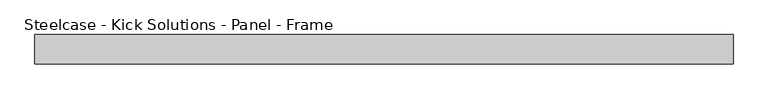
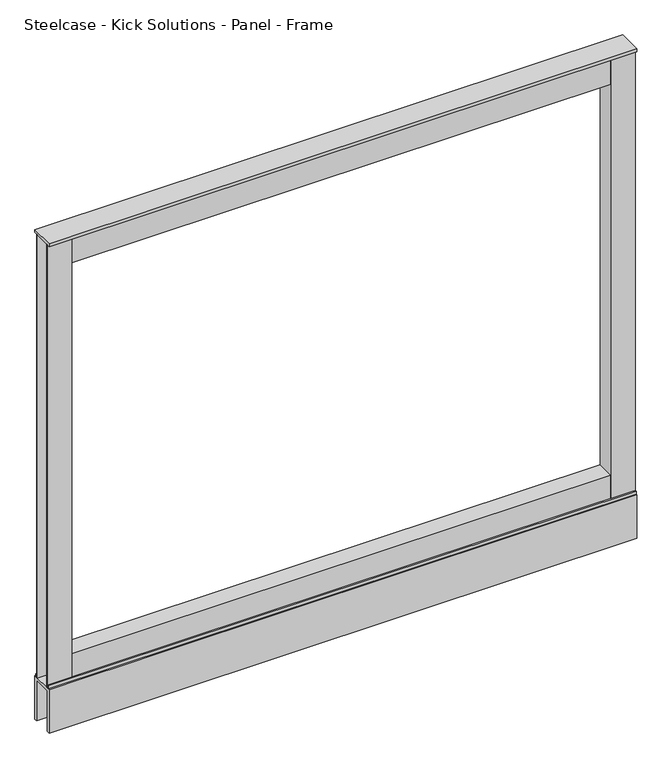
"""IFC4 building model written with IfcOpenShell, lengths in millimetres: furniture geometry, Steelcase - Kick Solutions - Panel - Frame : 42H x 48W."""

from ifc_helpers import new_model, si_unit, frame, origin, place, context, project, spatial, polyline, outline, extrude, source, transform, mapped, element, save


def steelcase_kick_solutions_panel_frame_169389f9(model_context):
    return source(origin(), model_context, "Body", "SweptSolid", [
        extrude(outline(polyline([(50.8006646, 6.3506854), (50.8006646, -31.7493123), (0.0, -31.7493123), (0.0, -29.2093123), (48.2606646, -29.2093123), (48.2606646, 3.8106854), (0.0, 3.8106854), (0.0, 6.3506854), (50.8006646, 6.3506854)])), frame((0.0, 0.0, 95.25), z_axis=(0.0, 0.0, 1.0), x_axis=(1.0, 0.0, 0.0)), (0.0, 0.0, 1.0), 971.55),
        extrude(outline(polyline([(1168.4006661, 6.3506854), (1219.2, 6.3506854), (1219.2, 3.8106854), (1170.9393354, 3.8106854), (1170.9393354, -29.2093123), (1219.2, -29.2093123), (1219.2, -31.7493123), (1168.4006661, -31.7493123), (1168.4006661, 6.3506854)])), frame((0.0, 0.0, 95.25), z_axis=(0.0, 0.0, 1.0), x_axis=(1.0, 0.0, 0.0)), (0.0, 0.0, 1.0), 971.55),
        extrude(outline(polyline([(6.3506854, 101.600003), (9.5256855, 101.600003), (9.5256855, 95.25), (8.409661, 95.25), (8.409661, 100.2902081), (6.3506854, 100.2902081), (6.3506854, 101.600003)])), frame((0.0, 0.0, 0.0), z_axis=(1.0, 0.0, 0.0), x_axis=(0.0, 1.0, 0.0)), (0.0, 0.0, 1.0), 1219.2),
        extrude(outline(polyline([(-34.9243138, 101.600003), (-31.7493123, 101.600003), (-31.7493123, 100.2902081), (-33.8479845, 100.2902081), (-33.8479845, 95.25), (-34.9243138, 95.25), (-34.9243138, 101.600003)])), frame((0.0, 0.0, 0.0), z_axis=(1.0, 0.0, 0.0), x_axis=(0.0, 1.0, 0.0)), (0.0, 0.0, 1.0), 1219.2),
        extrude(outline(polyline([(1168.4006661, -31.7493123), (50.8006646, -31.7493123), (50.8006646, 6.3506854), (1168.4006661, 6.3506854), (1168.4006661, -31.7493123)])), frame((0.0, 0.0, 1009.6500242), z_axis=(0.0, 0.0, 1.0), x_axis=(1.0, 0.0, 0.0)), (0.0, 0.0, 1.0), 57.1499758),
        extrude(outline(polyline([(1168.4006661, -31.7493123), (50.8006646, -31.7493123), (50.8006646, 6.3506854), (1168.4006661, 6.3506854), (1168.4006661, -31.7493123)])), frame((0.0, 0.0, 95.25), z_axis=(0.0, 0.0, 1.0), x_axis=(1.0, 0.0, 0.0)), (0.0, 0.0, 1.0), 57.15),
        extrude(outline(polyline([(1219.2, 12.7000004), (1219.2, -38.1000011), (0.0, -38.1000011), (0.0, 12.7000004), (1219.2, 12.7000004)])), frame((0.0, 0.0, 1066.8), z_axis=(0.0, 0.0, 1.0), x_axis=(1.0, 0.0, 0.0)), (0.0, 0.0, 1.0), 6.35),
        extrude(outline(polyline([(-38.1000011, 95.25), (12.7000004, 95.25), (12.7000004, 0.0), (6.3506854, 0.0), (6.3506854, 88.9), (-31.7493123, 88.9), (-31.7493123, 0.0), (-38.1000011, 0.0), (-38.1000011, 95.25)])), frame((0.0, 0.0, 0.0), z_axis=(1.0, 0.0, 0.0), x_axis=(0.0, 1.0, 0.0)), (0.0, 0.0, 1.0), 1219.2),
    ])


if __name__ == "__main__":
    model = new_model("IFC4")
    model_context = context("Model", 3, world=origin())
    ifc_project = project(units=[si_unit("LENGTHUNIT", "METRE", prefix="MILLI")], contexts=[model_context])
    site = spatial("IfcSite", under=ifc_project)
    building = spatial("IfcBuilding", under=site)
    placement = place(None, origin())
    steelcase_kick_solutions_panel_frame_shape = steelcase_kick_solutions_panel_frame_169389f9(model_context)
    element("IfcFurniture", 1, ObjectType="Steelcase - Kick Solutions - Panel - Frame : 42H x 48W", at=placement, inside=building, context=model_context, shape_type="MappedRepresentation", body=[
        mapped(steelcase_kick_solutions_panel_frame_shape, transform((0.0, 0.0, 0.0), x_axis=(1.0, 0.0, 0.0), y_axis=(0.0, 1.0, 0.0), z_axis=(0.0, 0.0, 1.0))),
    ])
    save(model, "model.ifc")
